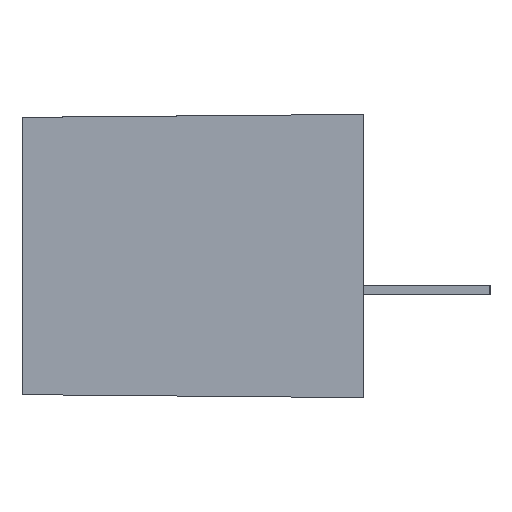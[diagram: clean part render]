
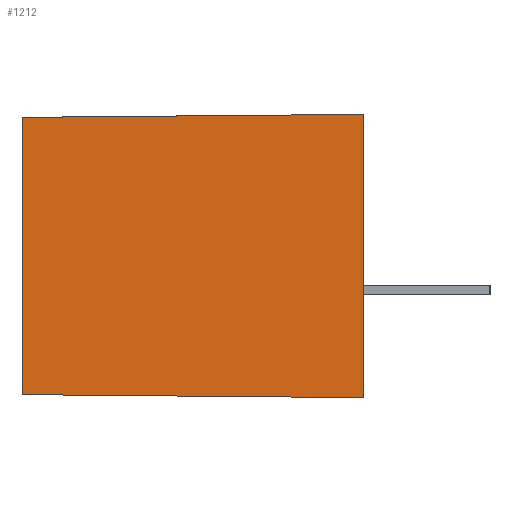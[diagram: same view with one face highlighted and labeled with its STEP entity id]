
A CAD part, left-side view. The second image highlights one B-rep face of the part: STEP entity #1212.
In plain terms, the highlighted planar face has unit normal (-1, 0.009, 0).
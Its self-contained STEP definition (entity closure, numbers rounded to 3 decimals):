
#7 = VERTEX_POINT ( 'NONE', #2731 ) ;
#110 = VERTEX_POINT ( 'NONE', #2857 ) ;
#250 = DIRECTION ( 'NONE',  ( 0., 0., -1. ) ) ;
#385 = LINE ( 'NONE', #3554, #4599 ) ;
#408 = CARTESIAN_POINT ( 'NONE',  ( -10.9, -0.5, 4.6 ) ) ;
#712 = LINE ( 'NONE', #4294, #5739 ) ;
#1158 = VERTEX_POINT ( 'NONE', #1509 ) ;
#1212 = ADVANCED_FACE ( 'NONE', ( #2340 ), #3634, .T. ) ;
#1509 = CARTESIAN_POINT ( 'NONE',  ( -10.803, 10.6, -4.503 ) ) ;
#1578 = EDGE_CURVE ( 'NONE', #110, #3893, #385, .T. ) ;
#1616 = LINE ( 'NONE', #3707, #4082 ) ;
#2315 = DIRECTION ( 'NONE',  ( 0., 0., -1. ) ) ;
#2340 = FACE_OUTER_BOUND ( 'NONE', #4402, .T. ) ;
#2491 = ORIENTED_EDGE ( 'NONE', *, *, #5420, .T. ) ;
#2514 = VECTOR ( 'NONE', #5480, 1000. ) ;
#2657 = DIRECTION ( 'NONE',  ( -1., 0.009, 0. ) ) ;
#2680 = DIRECTION ( 'NONE',  ( -0.009, -1., 0. ) ) ;
#2701 = ORIENTED_EDGE ( 'NONE', *, *, #1578, .F. ) ;
#2731 = CARTESIAN_POINT ( 'NONE',  ( -10.9, -0.5, -4.6 ) ) ;
#2775 = EDGE_CURVE ( 'NONE', #110, #1158, #712, .T. ) ;
#2857 = CARTESIAN_POINT ( 'NONE',  ( -10.803, 10.6, 4.503 ) ) ;
#3228 = LINE ( 'NONE', #5441, #2514 ) ;
#3312 = CARTESIAN_POINT ( 'NONE',  ( -10.9, -0.5, 4.6 ) ) ;
#3367 = ORIENTED_EDGE ( 'NONE', *, *, #4264, .F. ) ;
#3554 = CARTESIAN_POINT ( 'NONE',  ( -10.9, -0.5, 4.6 ) ) ;
#3577 = ORIENTED_EDGE ( 'NONE', *, *, #2775, .T. ) ;
#3634 = PLANE ( 'NONE',  #5520 ) ;
#3707 = CARTESIAN_POINT ( 'NONE',  ( -10.9, -0.5, 4.6 ) ) ;
#3893 = VERTEX_POINT ( 'NONE', #3312 ) ;
#4082 = VECTOR ( 'NONE', #2315, 1000. ) ;
#4264 = EDGE_CURVE ( 'NONE', #3893, #7, #1616, .T. ) ;
#4294 = CARTESIAN_POINT ( 'NONE',  ( -10.803, 10.6, 4.6 ) ) ;
#4402 = EDGE_LOOP ( 'NONE', ( #2491, #3367, #2701, #3577 ) ) ;
#4599 = VECTOR ( 'NONE', #4844, 1000. ) ;
#4844 = DIRECTION ( 'NONE',  ( -0.009, -1., 0.009 ) ) ;
#5420 = EDGE_CURVE ( 'NONE', #1158, #7, #3228, .T. ) ;
#5441 = CARTESIAN_POINT ( 'NONE',  ( -10.899, -0.42, -4.599 ) ) ;
#5480 = DIRECTION ( 'NONE',  ( -0.009, -1., -0.009 ) ) ;
#5520 = AXIS2_PLACEMENT_3D ( 'NONE', #408, #2657, #2680 ) ;
#5739 = VECTOR ( 'NONE', #250, 1000. ) ;
